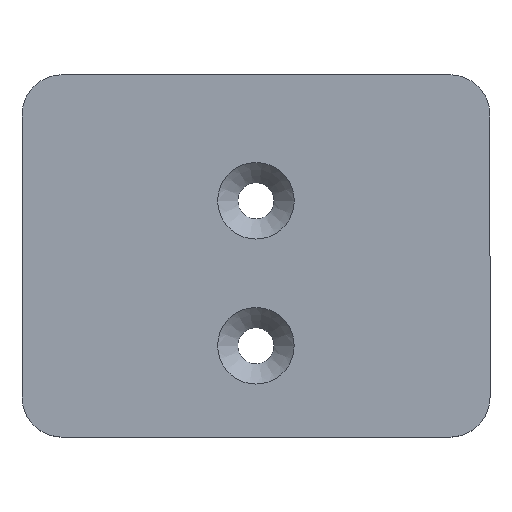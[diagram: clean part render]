
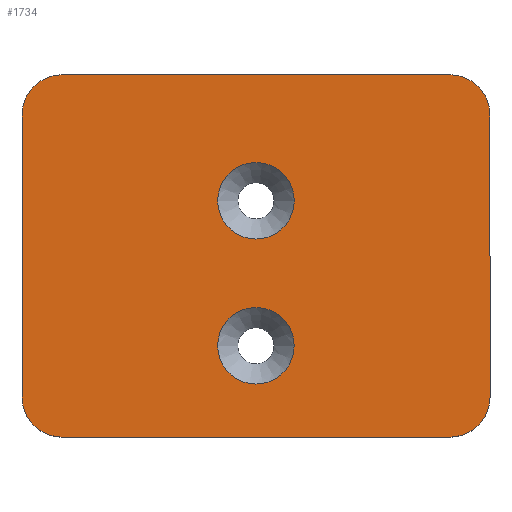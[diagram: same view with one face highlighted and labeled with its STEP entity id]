
A CAD part, top view. The second image highlights one B-rep face of the part: STEP entity #1734.
In plain terms, the highlighted planar face has unit normal (0, 0, 1).
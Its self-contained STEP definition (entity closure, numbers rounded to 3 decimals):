
#8 = LINE ( 'NONE', #845, #22 ) ;
#13 = LINE ( 'NONE', #1638, #1373 ) ;
#22 = VECTOR ( 'NONE', #1645, 1000. ) ;
#23 = VECTOR ( 'NONE', #1518, 1000. ) ;
#34 = DIRECTION ( 'NONE',  ( 1., 0., 0. ) ) ;
#49 = ORIENTED_EDGE ( 'NONE', *, *, #402, .T. ) ;
#50 = EDGE_CURVE ( 'NONE', #939, #530, #2017, .T. ) ;
#55 = CARTESIAN_POINT ( 'NONE',  ( 11.64, -40., 6. ) ) ;
#64 = ORIENTED_EDGE ( 'NONE', *, *, #496, .T. ) ;
#164 = EDGE_LOOP ( 'NONE', ( #1739, #1029 ) ) ;
#210 = DIRECTION ( 'NONE',  ( 1., 0., 0. ) ) ;
#214 = DIRECTION ( 'NONE',  ( 0., 0., -1. ) ) ;
#248 = CARTESIAN_POINT ( 'NONE',  ( 6.64, -45., 6. ) ) ;
#318 = DIRECTION ( 'NONE',  ( 0., -1., 0. ) ) ;
#397 = CIRCLE ( 'NONE', #778, 5. ) ;
#402 = EDGE_CURVE ( 'NONE', #1298, #606, #1717, .T. ) ;
#429 = ORIENTED_EDGE ( 'NONE', *, *, #821, .T. ) ;
#476 = CIRCLE ( 'NONE', #1888, 4.75 ) ;
#489 = CARTESIAN_POINT ( 'NONE',  ( -46.46, -5., 6. ) ) ;
#496 = EDGE_CURVE ( 'NONE', #1453, #2308, #13, .T. ) ;
#498 = DIRECTION ( 'NONE',  ( 0., 0., 1. ) ) ;
#510 = EDGE_CURVE ( 'NONE', #530, #939, #476, .T. ) ;
#530 = VERTEX_POINT ( 'NONE', #1333 ) ;
#582 = EDGE_LOOP ( 'NONE', ( #2217, #1784, #1641, #49, #1223, #64, #1667, #1993 ) ) ;
#606 = VERTEX_POINT ( 'NONE', #2331 ) ;
#630 = CARTESIAN_POINT ( 'NONE',  ( -17.415, -15.651, 6. ) ) ;
#633 = CARTESIAN_POINT ( 'NONE',  ( -17.419, -33.651, 6. ) ) ;
#655 = AXIS2_PLACEMENT_3D ( 'NONE', #630, #1439, #2250 ) ;
#684 = DIRECTION ( 'NONE',  ( 1., 0., 0. ) ) ;
#699 = DIRECTION ( 'NONE',  ( 1., 0., 0. ) ) ;
#713 = DIRECTION ( 'NONE',  ( 0., 0., -1. ) ) ;
#778 = AXIS2_PLACEMENT_3D ( 'NONE', #2540, #888, #684 ) ;
#781 = CIRCLE ( 'NONE', #655, 4.75 ) ;
#817 = DIRECTION ( 'NONE',  ( 1., 0., 0. ) ) ;
#821 = EDGE_CURVE ( 'NONE', #972, #1364, #1244, .T. ) ;
#822 = DIRECTION ( 'NONE',  ( -1., 0., 0. ) ) ;
#834 = CARTESIAN_POINT ( 'NONE',  ( -41.46, -5., 6. ) ) ;
#845 = CARTESIAN_POINT ( 'NONE',  ( -41.46, -45., 6. ) ) ;
#873 = EDGE_CURVE ( 'NONE', #1568, #1298, #1540, .T. ) ;
#874 = CARTESIAN_POINT ( 'NONE',  ( -41.46, -40., 6. ) ) ;
#887 = EDGE_CURVE ( 'NONE', #606, #1453, #397, .T. ) ;
#888 = DIRECTION ( 'NONE',  ( 0., 0., 1. ) ) ;
#939 = VERTEX_POINT ( 'NONE', #2196 ) ;
#972 = VERTEX_POINT ( 'NONE', #2585 ) ;
#976 = DIRECTION ( 'NONE',  ( 0., 0., 1. ) ) ;
#1010 = EDGE_LOOP ( 'NONE', ( #429, #1156 ) ) ;
#1029 = ORIENTED_EDGE ( 'NONE', *, *, #50, .T. ) ;
#1092 = FACE_BOUND ( 'NONE', #164, .T. ) ;
#1123 = VECTOR ( 'NONE', #318, 1000. ) ;
#1131 = FACE_BOUND ( 'NONE', #1010, .T. ) ;
#1156 = ORIENTED_EDGE ( 'NONE', *, *, #2549, .T. ) ;
#1173 = VERTEX_POINT ( 'NONE', #1360 ) ;
#1181 = CARTESIAN_POINT ( 'NONE',  ( -41.46, -40., 6. ) ) ;
#1223 = ORIENTED_EDGE ( 'NONE', *, *, #887, .T. ) ;
#1244 = CIRCLE ( 'NONE', #2609, 4.75 ) ;
#1298 = VERTEX_POINT ( 'NONE', #55 ) ;
#1333 = CARTESIAN_POINT ( 'NONE',  ( -12.669, -33.651, 6. ) ) ;
#1360 = CARTESIAN_POINT ( 'NONE',  ( -46.46, -5., 6. ) ) ;
#1364 = VERTEX_POINT ( 'NONE', #1934 ) ;
#1373 = VECTOR ( 'NONE', #822, 1000. ) ;
#1399 = EDGE_CURVE ( 'NONE', #1173, #2270, #1906, .T. ) ;
#1439 = DIRECTION ( 'NONE',  ( 0., 0., -1. ) ) ;
#1441 = DIRECTION ( 'NONE',  ( 0., 0., -1. ) ) ;
#1453 = VERTEX_POINT ( 'NONE', #2586 ) ;
#1518 = DIRECTION ( 'NONE',  ( 0., 1., 0. ) ) ;
#1540 = CIRCLE ( 'NONE', #1927, 5. ) ;
#1547 = AXIS2_PLACEMENT_3D ( 'NONE', #1181, #976, #210 ) ;
#1568 = VERTEX_POINT ( 'NONE', #248 ) ;
#1638 = CARTESIAN_POINT ( 'NONE',  ( -41.46, 0., 6. ) ) ;
#1641 = ORIENTED_EDGE ( 'NONE', *, *, #873, .T. ) ;
#1645 = DIRECTION ( 'NONE',  ( 1., 0., 0. ) ) ;
#1667 = ORIENTED_EDGE ( 'NONE', *, *, #2088, .T. ) ;
#1697 = DIRECTION ( 'NONE',  ( 1., 0., 0. ) ) ;
#1712 = CIRCLE ( 'NONE', #1547, 5. ) ;
#1717 = LINE ( 'NONE', #2576, #23 ) ;
#1726 = DIRECTION ( 'NONE',  ( 1., 0., 0. ) ) ;
#1734 = ADVANCED_FACE ( 'NONE', ( #1131, #1092, #1942 ), #1891, .T. ) ;
#1739 = ORIENTED_EDGE ( 'NONE', *, *, #510, .T. ) ;
#1764 = AXIS2_PLACEMENT_3D ( 'NONE', #874, #498, #699 ) ;
#1784 = ORIENTED_EDGE ( 'NONE', *, *, #2373, .T. ) ;
#1812 = AXIS2_PLACEMENT_3D ( 'NONE', #834, #2044, #817 ) ;
#1868 = VERTEX_POINT ( 'NONE', #1892 ) ;
#1888 = AXIS2_PLACEMENT_3D ( 'NONE', #2033, #214, #2319 ) ;
#1891 = PLANE ( 'NONE',  #1764 ) ;
#1892 = CARTESIAN_POINT ( 'NONE',  ( -41.46, -45., 6. ) ) ;
#1906 = LINE ( 'NONE', #489, #1123 ) ;
#1927 = AXIS2_PLACEMENT_3D ( 'NONE', #2501, #2326, #1697 ) ;
#1932 = CARTESIAN_POINT ( 'NONE',  ( -17.415, -15.651, 6. ) ) ;
#1934 = CARTESIAN_POINT ( 'NONE',  ( -22.165, -15.651, 6. ) ) ;
#1942 = FACE_OUTER_BOUND ( 'NONE', #582, .T. ) ;
#1993 = ORIENTED_EDGE ( 'NONE', *, *, #1399, .T. ) ;
#2017 = CIRCLE ( 'NONE', #2229, 4.75 ) ;
#2033 = CARTESIAN_POINT ( 'NONE',  ( -17.419, -33.651, 6. ) ) ;
#2044 = DIRECTION ( 'NONE',  ( 0., 0., 1. ) ) ;
#2088 = EDGE_CURVE ( 'NONE', #2308, #1173, #2268, .T. ) ;
#2196 = CARTESIAN_POINT ( 'NONE',  ( -22.169, -33.651, 6. ) ) ;
#2217 = ORIENTED_EDGE ( 'NONE', *, *, #2284, .T. ) ;
#2229 = AXIS2_PLACEMENT_3D ( 'NONE', #633, #1441, #34 ) ;
#2250 = DIRECTION ( 'NONE',  ( 1., 0., 0. ) ) ;
#2268 = CIRCLE ( 'NONE', #1812, 5. ) ;
#2270 = VERTEX_POINT ( 'NONE', #2587 ) ;
#2284 = EDGE_CURVE ( 'NONE', #2270, #1868, #1712, .T. ) ;
#2308 = VERTEX_POINT ( 'NONE', #2443 ) ;
#2319 = DIRECTION ( 'NONE',  ( 1., 0., 0. ) ) ;
#2326 = DIRECTION ( 'NONE',  ( 0., 0., 1. ) ) ;
#2331 = CARTESIAN_POINT ( 'NONE',  ( 11.64, -5., 6. ) ) ;
#2373 = EDGE_CURVE ( 'NONE', #1868, #1568, #8, .T. ) ;
#2443 = CARTESIAN_POINT ( 'NONE',  ( -41.46, 0., 6. ) ) ;
#2501 = CARTESIAN_POINT ( 'NONE',  ( 6.64, -40., 6. ) ) ;
#2540 = CARTESIAN_POINT ( 'NONE',  ( 6.64, -5., 6. ) ) ;
#2549 = EDGE_CURVE ( 'NONE', #1364, #972, #781, .T. ) ;
#2576 = CARTESIAN_POINT ( 'NONE',  ( 11.64, -5., 6. ) ) ;
#2585 = CARTESIAN_POINT ( 'NONE',  ( -12.665, -15.651, 6. ) ) ;
#2586 = CARTESIAN_POINT ( 'NONE',  ( 6.64, 0., 6. ) ) ;
#2587 = CARTESIAN_POINT ( 'NONE',  ( -46.46, -40., 6. ) ) ;
#2609 = AXIS2_PLACEMENT_3D ( 'NONE', #1932, #713, #1726 ) ;
